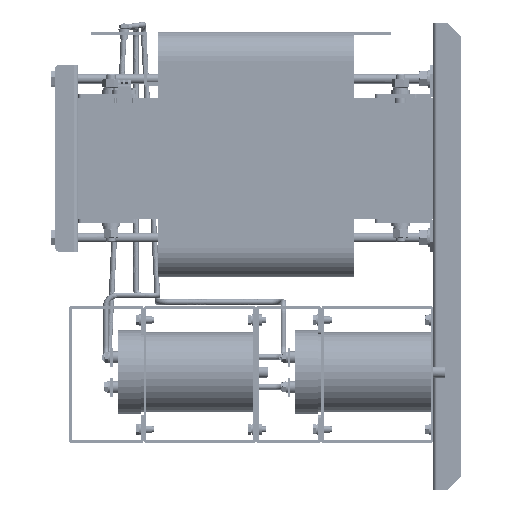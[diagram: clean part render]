
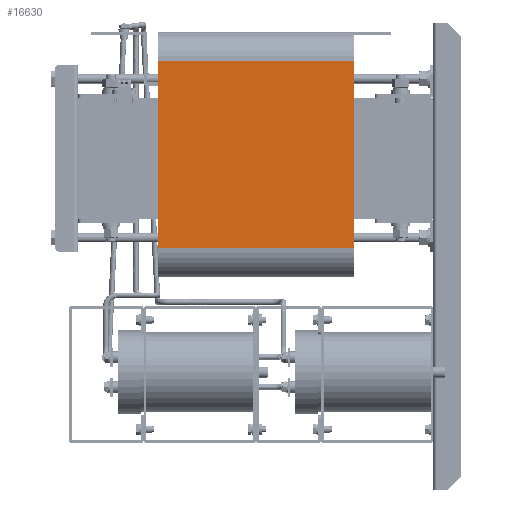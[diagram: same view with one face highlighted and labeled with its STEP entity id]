
A CAD part, left-side view. The second image highlights one B-rep face of the part: STEP entity #16630.
In plain terms, the highlighted planar face has unit normal (-1, 0, 0).
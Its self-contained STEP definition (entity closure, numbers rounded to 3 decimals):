
#16630=ADVANCED_FACE('',(#27342),#27344,.F.);
#27342=FACE_BOUND('',#27343,.T.);
#27343=EDGE_LOOP('',(#42470,#42471,#42472,#42473));
#27344=PLANE('',#27345);
#27345=AXIS2_PLACEMENT_3D('',#27346,#27347,#27348);
#27346=CARTESIAN_POINT('',(-73.5,127.5,105.));
#27347=DIRECTION('',(1.,0.,0.));
#27348=DIRECTION('',(0.,1.,0.));
#42470=ORIENTED_EDGE('',*,*,#46640,.T.);
#42471=ORIENTED_EDGE('',*,*,#46656,.T.);
#42472=ORIENTED_EDGE('',*,*,#46626,.F.);
#42473=ORIENTED_EDGE('',*,*,#46657,.T.);
#46626=EDGE_CURVE('',#51229,#51231,#51232,.T.);
#46640=EDGE_CURVE('',#51259,#51257,#51260,.T.);
#46656=EDGE_CURVE('',#51257,#51231,#51286,.T.);
#46657=EDGE_CURVE('',#51229,#51259,#51287,.T.);
#51229=VERTEX_POINT('',#62924);
#51231=VERTEX_POINT('',#62929);
#51232=LINE('',#62930,#62931);
#51257=VERTEX_POINT('',#62987);
#51259=VERTEX_POINT('',#62992);
#51260=LINE('',#62993,#62994);
#51286=LINE('',#63057,#63058);
#51287=LINE('',#63060,#63061);
#62924=CARTESIAN_POINT('',(-73.5,96.5,105.));
#62929=CARTESIAN_POINT('',(-73.5,-104.5,105.));
#62930=CARTESIAN_POINT('',(-73.5,96.5,105.));
#62931=VECTOR('',#62932,1.);
#62932=DIRECTION('',(0.,-1.,0.));
#62987=CARTESIAN_POINT('',(-73.5,-104.5,-105.));
#62992=CARTESIAN_POINT('',(-73.5,96.5,-105.));
#62993=CARTESIAN_POINT('',(-73.5,96.5,-105.));
#62994=VECTOR('',#62995,1.);
#62995=DIRECTION('',(0.,-1.,0.));
#63057=CARTESIAN_POINT('',(-73.5,-104.5,-105.));
#63058=VECTOR('',#63059,1.);
#63059=DIRECTION('',(0.,0.,1.));
#63060=CARTESIAN_POINT('',(-73.5,96.5,105.));
#63061=VECTOR('',#63062,1.);
#63062=DIRECTION('',(0.,0.,-1.));
